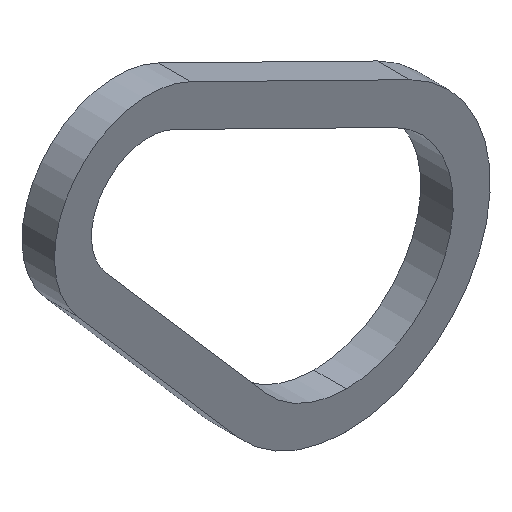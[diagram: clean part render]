
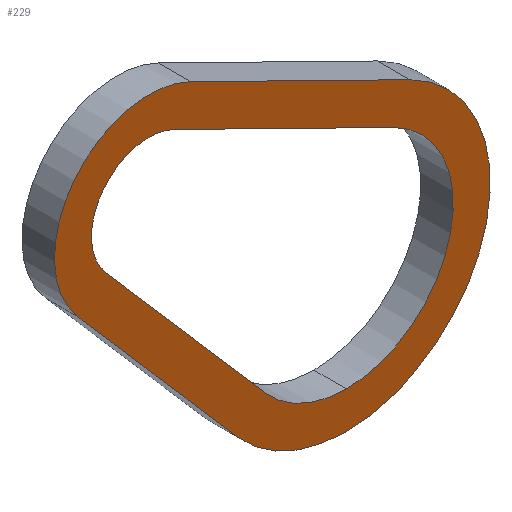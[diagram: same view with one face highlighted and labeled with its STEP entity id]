
A CAD part, isometric view. The second image highlights one B-rep face of the part: STEP entity #229.
In plain terms, the highlighted planar face has unit normal (0, -1, 0).
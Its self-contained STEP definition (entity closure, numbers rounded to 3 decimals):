
#5 = DIRECTION ( 'NONE',  ( 0.655, 0., -0.755 ) ) ;
#10 = FACE_OUTER_BOUND ( 'NONE', #204, .T. ) ;
#12 = VERTEX_POINT ( 'NONE', #88 ) ;
#14 = DIRECTION ( 'NONE',  ( 0., -1., 0. ) ) ;
#16 = EDGE_CURVE ( 'NONE', #95, #329, #245, .T. ) ;
#24 = AXIS2_PLACEMENT_3D ( 'NONE', #189, #14, #40 ) ;
#36 = DIRECTION ( 'NONE',  ( 0., -1., 0. ) ) ;
#37 = FACE_BOUND ( 'NONE', #83, .T. ) ;
#39 = CARTESIAN_POINT ( 'NONE',  ( 7.143, -52.2, 2.782 ) ) ;
#40 = DIRECTION ( 'NONE',  ( 0., 0., -1. ) ) ;
#41 = EDGE_CURVE ( 'NONE', #175, #201, #217, .T. ) ;
#42 = DIRECTION ( 'NONE',  ( -0.897, 0., 0.442 ) ) ;
#51 = VERTEX_POINT ( 'NONE', #178 ) ;
#56 = VERTEX_POINT ( 'NONE', #313 ) ;
#58 = CARTESIAN_POINT ( 'NONE',  ( 8.2, -52.2, 3.7 ) ) ;
#61 = EDGE_CURVE ( 'NONE', #201, #299, #243, .T. ) ;
#75 = CARTESIAN_POINT ( 'NONE',  ( 8.2, -52.2, 3.7 ) ) ;
#79 = VECTOR ( 'NONE', #300, 1000. ) ;
#81 = ORIENTED_EDGE ( 'NONE', *, *, #16, .F. ) ;
#83 = EDGE_LOOP ( 'NONE', ( #348, #156, #114, #81, #370 ) ) ;
#88 = CARTESIAN_POINT ( 'NONE',  ( 10.357, -52.2, -2.294 ) ) ;
#92 = DIRECTION ( 'NONE',  ( 0., -1., 0. ) ) ;
#95 = VERTEX_POINT ( 'NONE', #179 ) ;
#103 = EDGE_CURVE ( 'NONE', #56, #147, #216, .T. ) ;
#114 = ORIENTED_EDGE ( 'NONE', *, *, #294, .F. ) ;
#116 = ORIENTED_EDGE ( 'NONE', *, *, #320, .T. ) ;
#121 = DIRECTION ( 'NONE',  ( 0., -1., 0. ) ) ;
#124 = VECTOR ( 'NONE', #42, 1000. ) ;
#130 = AXIS2_PLACEMENT_3D ( 'NONE', #352, #253, #136 ) ;
#133 = DIRECTION ( 'NONE',  ( 0., -1., 0. ) ) ;
#136 = DIRECTION ( 'NONE',  ( 0., 0., 1. ) ) ;
#147 = VERTEX_POINT ( 'NONE', #213 ) ;
#154 = CARTESIAN_POINT ( 'NONE',  ( 7.143, -52.2, 2.782 ) ) ;
#156 = ORIENTED_EDGE ( 'NONE', *, *, #41, .F. ) ;
#162 = DIRECTION ( 'NONE',  ( 0., 0., -1. ) ) ;
#167 = LINE ( 'NONE', #233, #79 ) ;
#175 = VERTEX_POINT ( 'NONE', #186 ) ;
#178 = CARTESIAN_POINT ( 'NONE',  ( 9.216, -52.2, 5.764 ) ) ;
#179 = CARTESIAN_POINT ( 'NONE',  ( 13., -52.2, -2.6 ) ) ;
#180 = AXIS2_PLACEMENT_3D ( 'NONE', #75, #133, #396 ) ;
#183 = DIRECTION ( 'NONE',  ( 0., -1., 0. ) ) ;
#184 = EDGE_CURVE ( 'NONE', #299, #95, #414, .T. ) ;
#186 = CARTESIAN_POINT ( 'NONE',  ( 8.818, -52.2, 4.956 ) ) ;
#189 = CARTESIAN_POINT ( 'NONE',  ( 13., -52.2, 0. ) ) ;
#190 = AXIS2_PLACEMENT_3D ( 'NONE', #381, #92, #311 ) ;
#194 = EDGE_CURVE ( 'NONE', #51, #208, #345, .T. ) ;
#199 = ORIENTED_EDGE ( 'NONE', *, *, #223, .T. ) ;
#201 = VERTEX_POINT ( 'NONE', #39 ) ;
#204 = EDGE_LOOP ( 'NONE', ( #236, #239, #199, #331, #116 ) ) ;
#207 = CARTESIAN_POINT ( 'NONE',  ( 13., -52.2, 0. ) ) ;
#208 = VERTEX_POINT ( 'NONE', #288 ) ;
#210 = AXIS2_PLACEMENT_3D ( 'NONE', #207, #121, #340 ) ;
#213 = CARTESIAN_POINT ( 'NONE',  ( 14.546, -52.2, 3.14 ) ) ;
#216 = CIRCLE ( 'NONE', #190, 3.5 ) ;
#217 = CIRCLE ( 'NONE', #380, 1.4 ) ;
#219 = PLANE ( 'NONE',  #130 ) ;
#222 = LINE ( 'NONE', #360, #124 ) ;
#223 = EDGE_CURVE ( 'NONE', #12, #56, #263, .T. ) ;
#225 = CARTESIAN_POINT ( 'NONE',  ( 6.463, -52.2, 2.192 ) ) ;
#229 = ADVANCED_FACE ( 'NONE', ( #37, #10 ), #219, .F. ) ;
#230 = AXIS2_PLACEMENT_3D ( 'NONE', #317, #36, #162 ) ;
#233 = CARTESIAN_POINT ( 'NONE',  ( 9.216, -52.2, 5.764 ) ) ;
#236 = ORIENTED_EDGE ( 'NONE', *, *, #194, .T. ) ;
#239 = ORIENTED_EDGE ( 'NONE', *, *, #298, .T. ) ;
#243 = LINE ( 'NONE', #154, #268 ) ;
#245 = CIRCLE ( 'NONE', #210, 2.6 ) ;
#253 = DIRECTION ( 'NONE',  ( 0., 1., 0. ) ) ;
#263 = CIRCLE ( 'NONE', #24, 3.5 ) ;
#267 = CARTESIAN_POINT ( 'NONE',  ( 11.036, -52.2, -1.704 ) ) ;
#268 = VECTOR ( 'NONE', #5, 1000. ) ;
#288 = CARTESIAN_POINT ( 'NONE',  ( 6.463, -52.2, 2.192 ) ) ;
#294 = EDGE_CURVE ( 'NONE', #329, #175, #222, .T. ) ;
#298 = EDGE_CURVE ( 'NONE', #208, #12, #364, .T. ) ;
#299 = VERTEX_POINT ( 'NONE', #267 ) ;
#300 = DIRECTION ( 'NONE',  ( -0.897, 0., 0.442 ) ) ;
#311 = DIRECTION ( 'NONE',  ( 0., 0., -1. ) ) ;
#313 = CARTESIAN_POINT ( 'NONE',  ( 13., -52.2, -3.5 ) ) ;
#317 = CARTESIAN_POINT ( 'NONE',  ( 13., -52.2, 0. ) ) ;
#320 = EDGE_CURVE ( 'NONE', #147, #51, #167, .T. ) ;
#322 = VECTOR ( 'NONE', #328, 1000. ) ;
#328 = DIRECTION ( 'NONE',  ( 0.655, 0., -0.755 ) ) ;
#329 = VERTEX_POINT ( 'NONE', #400 ) ;
#331 = ORIENTED_EDGE ( 'NONE', *, *, #103, .T. ) ;
#340 = DIRECTION ( 'NONE',  ( 0., 0., -1. ) ) ;
#345 = CIRCLE ( 'NONE', #180, 2.3 ) ;
#348 = ORIENTED_EDGE ( 'NONE', *, *, #61, .F. ) ;
#349 = DIRECTION ( 'NONE',  ( 0., 0., 1. ) ) ;
#352 = CARTESIAN_POINT ( 'NONE',  ( 8.2, -52.2, 3.7 ) ) ;
#360 = CARTESIAN_POINT ( 'NONE',  ( 8.818, -52.2, 4.956 ) ) ;
#364 = LINE ( 'NONE', #225, #322 ) ;
#370 = ORIENTED_EDGE ( 'NONE', *, *, #184, .F. ) ;
#380 = AXIS2_PLACEMENT_3D ( 'NONE', #58, #183, #349 ) ;
#381 = CARTESIAN_POINT ( 'NONE',  ( 13., -52.2, 0. ) ) ;
#396 = DIRECTION ( 'NONE',  ( 0., 0., 1. ) ) ;
#400 = CARTESIAN_POINT ( 'NONE',  ( 14.148, -52.2, 2.333 ) ) ;
#414 = CIRCLE ( 'NONE', #230, 2.6 ) ;
